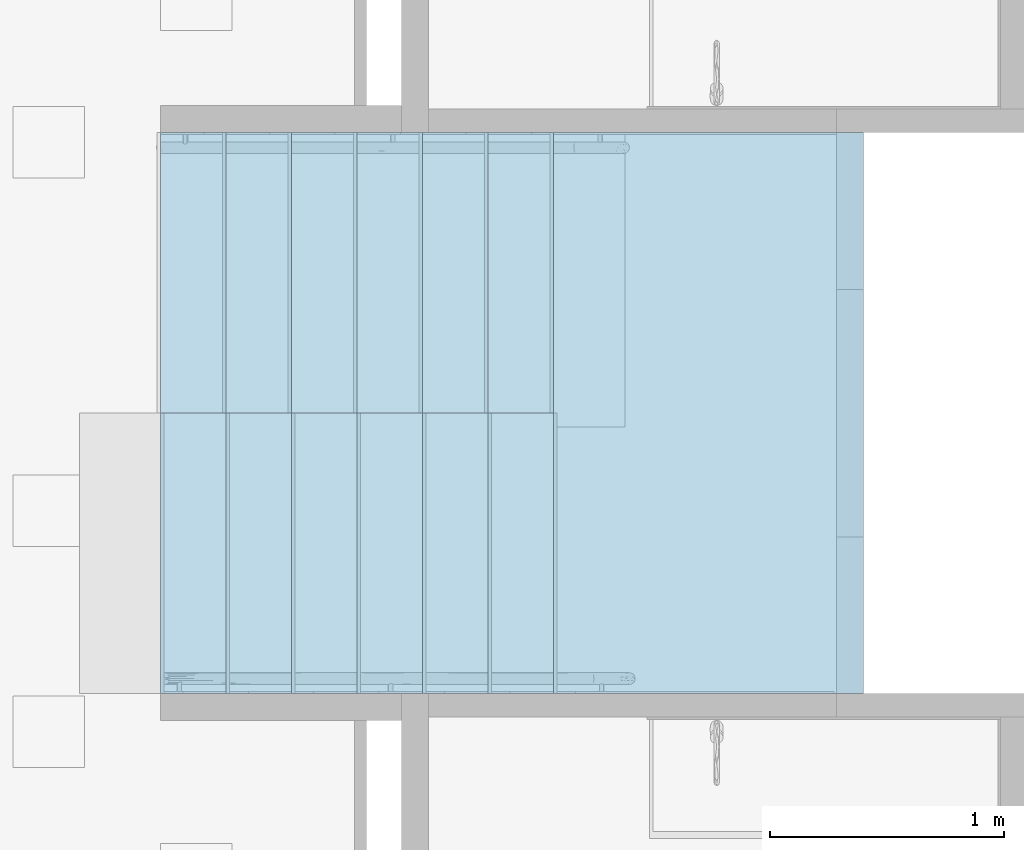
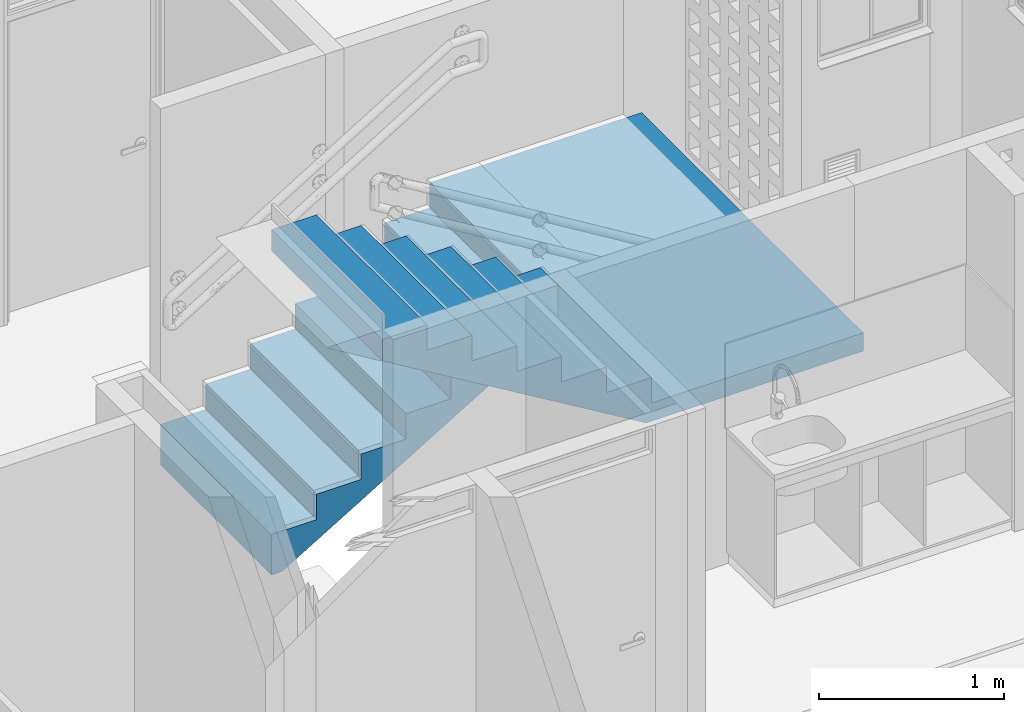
# One storey, part 33 of 48: 1 stair.
"""IFC4 building model written with IfcOpenShell, lengths in metres."""

from ifc_helpers import new_model, entity, si_unit, converted_unit, derived_unit, direction, frame, origin, place, context, subcontext, project, spatial, polygons, material, type_object, element, save


model = new_model("IFC4")

# Units and contexts
model_context = context("Model", 3, precision=1e-05, world=origin(), true_north=direction((6.123031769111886e-17, 1.0)))
body_context = subcontext(model_context, "Body", "Model", "MODEL_VIEW")
ifc_project = project(units=[si_unit("LENGTHUNIT", "METRE"), si_unit("AREAUNIT", "SQUARE_METRE"), si_unit("VOLUMEUNIT", "CUBIC_METRE"), converted_unit("PLANEANGLEUNIT", "DEGREE", entity("IfcRatioMeasure", 0.017453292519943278), si_unit("PLANEANGLEUNIT", "RADIAN"), dimensions=[0, 0, 0, 0, 0, 0, 0]), si_unit("MASSUNIT", "GRAM", prefix="KILO"), derived_unit("MASSDENSITYUNIT", [(si_unit("MASSUNIT", "GRAM", prefix="KILO"), 1), (si_unit("LENGTHUNIT", "METRE"), -3)]), derived_unit("IONCONCENTRATIONUNIT", [(si_unit("MASSUNIT", "GRAM", prefix="KILO"), 1), (si_unit("LENGTHUNIT", "METRE"), -3)]), derived_unit("MOMENTOFINERTIAUNIT", [(si_unit("LENGTHUNIT", "METRE"), 4)]), si_unit("TIMEUNIT", "SECOND"), si_unit("FREQUENCYUNIT", "HERTZ"), si_unit("THERMODYNAMICTEMPERATUREUNIT", "DEGREE_CELSIUS"), derived_unit("THERMALTRANSMITTANCEUNIT", [(si_unit("MASSUNIT", "GRAM", prefix="KILO"), 1), (si_unit("THERMODYNAMICTEMPERATUREUNIT", "KELVIN"), -1), (si_unit("TIMEUNIT", "SECOND"), -3)]), derived_unit("THERMALCONDUCTANCEUNIT", [(si_unit("MASSUNIT", "GRAM", prefix="KILO"), 1), (si_unit("THERMODYNAMICTEMPERATUREUNIT", "KELVIN"), -1), (si_unit("TIMEUNIT", "SECOND"), -3), (si_unit("LENGTHUNIT", "METRE"), 1)]), derived_unit("VOLUMETRICFLOWRATEUNIT", [(si_unit("LENGTHUNIT", "METRE"), 3), (si_unit("TIMEUNIT", "SECOND"), -1)]), derived_unit("MASSFLOWRATEUNIT", [(si_unit("MASSUNIT", "GRAM", prefix="KILO"), 1), (si_unit("TIMEUNIT", "SECOND"), -1)]), derived_unit("ROTATIONALFREQUENCYUNIT", [(si_unit("TIMEUNIT", "SECOND"), -1)]), si_unit("ELECTRICCURRENTUNIT", "AMPERE"), si_unit("ELECTRICVOLTAGEUNIT", "VOLT"), si_unit("POWERUNIT", "WATT"), si_unit("FORCEUNIT", "NEWTON", prefix="KILO"), si_unit("ILLUMINANCEUNIT", "LUX"), si_unit("LUMINOUSFLUXUNIT", "LUMEN"), si_unit("LUMINOUSINTENSITYUNIT", "CANDELA"), derived_unit("USERDEFINED", [(si_unit("MASSUNIT", "GRAM", prefix="KILO"), -1), (si_unit("LENGTHUNIT", "METRE"), -2), (si_unit("TIMEUNIT", "SECOND"), 3), (si_unit("LUMINOUSFLUXUNIT", "LUMEN"), 1)]), derived_unit("USERDEFINED", [(si_unit("MASSUNIT", "GRAM", prefix="KILO"), 1), (si_unit("TIMEUNIT", "SECOND"), -3), (si_unit("LENGTHUNIT", "METRE"), 3), (si_unit("ELECTRICCURRENTUNIT", "AMPERE"), -2)]), derived_unit("SOUNDPOWERUNIT", [(si_unit("MASSUNIT", "GRAM", prefix="KILO"), 1), (si_unit("TIMEUNIT", "SECOND"), -3), (si_unit("LENGTHUNIT", "METRE"), 2)]), derived_unit("SOUNDPRESSUREUNIT", [(si_unit("MASSUNIT", "GRAM", prefix="KILO"), 1), (si_unit("LENGTHUNIT", "METRE"), -1), (si_unit("TIMEUNIT", "SECOND"), -2)]), derived_unit("LINEARVELOCITYUNIT", [(si_unit("LENGTHUNIT", "METRE"), 1), (si_unit("TIMEUNIT", "SECOND"), -1)]), si_unit("PRESSUREUNIT", "PASCAL"), derived_unit("USERDEFINED", [(si_unit("MASSUNIT", "GRAM", prefix="KILO"), 1), (si_unit("LENGTHUNIT", "METRE"), -2), (si_unit("TIMEUNIT", "SECOND"), -2)]), derived_unit("LINEARFORCEUNIT", [(si_unit("MASSUNIT", "GRAM", prefix="KILO"), 1), (si_unit("TIMEUNIT", "SECOND"), -2)]), derived_unit("PLANARFORCEUNIT", [(si_unit("MASSUNIT", "GRAM", prefix="KILO"), 1), (si_unit("LENGTHUNIT", "METRE"), -1), (si_unit("TIMEUNIT", "SECOND"), -2)]), derived_unit("SPECIFICHEATCAPACITYUNIT", [(si_unit("THERMODYNAMICTEMPERATUREUNIT", "KELVIN"), -1), (si_unit("LENGTHUNIT", "METRE"), 2), (si_unit("TIMEUNIT", "SECOND"), -2)]), derived_unit("HEATINGVALUEUNIT", [(si_unit("LENGTHUNIT", "METRE"), 2), (si_unit("TIMEUNIT", "SECOND"), -2)]), derived_unit("VAPORPERMEABILITYUNIT", [(si_unit("LENGTHUNIT", "METRE"), -1), (si_unit("TIMEUNIT", "SECOND"), 1)]), derived_unit("DYNAMICVISCOSITYUNIT", [(si_unit("MASSUNIT", "GRAM", prefix="KILO"), 1), (si_unit("TIMEUNIT", "SECOND"), -1), (si_unit("LENGTHUNIT", "METRE"), -1)]), derived_unit("THERMALEXPANSIONCOEFFICIENTUNIT", [(si_unit("THERMODYNAMICTEMPERATUREUNIT", "KELVIN"), -1)]), derived_unit("MODULUSOFELASTICITYUNIT", [(si_unit("MASSUNIT", "GRAM", prefix="KILO"), 1), (si_unit("LENGTHUNIT", "METRE"), -1), (si_unit("TIMEUNIT", "SECOND"), -2)]), derived_unit("ISOTHERMALMOISTURECAPACITYUNIT", [(si_unit("LENGTHUNIT", "METRE"), 3), (si_unit("MASSUNIT", "GRAM", prefix="KILO"), -1)]), derived_unit("MOISTUREDIFFUSIVITYUNIT", [(si_unit("TIMEUNIT", "SECOND"), -1), (si_unit("LENGTHUNIT", "METRE"), 2)])], contexts=[model_context])

# Site, building, storey
site_placement = place(None, origin())
site = spatial("IfcSite", under=ifc_project, at=site_placement, Name="Default", CompositionType="ELEMENT")
building_placement = place(site_placement, origin())
building = spatial("IfcBuilding", under=site, at=building_placement, CompositionType="ELEMENT")
storey_placement = place(building_placement, frame((0.0, 0.0, 9.40000000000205)))
storey = spatial("IfcBuildingStorey", under=building, at=storey_placement, Name="Nivel 5", CompositionType="ELEMENT", Elevation=9.40000000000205)

# Stair
ifc_material = material(Name="Concreto (Aire)", Category="Materials")
stair_type = type_object("IfcStairType", Name="Stair:B1080 - 2.40 x 2.88 - Escalera en concreto de dos tramos piso tipo", PredefinedType="NOTDEFINED")
stair_placement = place(storey_placement, frame((9.55250000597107, -7.625000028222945, -0.09999999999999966)))
element("IfcStair", 1, at=stair_placement, inside=storey, type_object=stair_type, material=ifc_material, Name="Stair:B1080 - 2.40 x 2.88 - Escalera en concreto de dos tramos piso tipo", ObjectType="Stair:B1080 - 2.40 x 2.88 - Escalera en concreto de dos tramos piso tipo", PredefinedType="NOTDEFINED", context=body_context, shape_type="Tessellation", body=[
    polygons([(0.2800000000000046, 2.4000000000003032, 0.2678571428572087), (4.331468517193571e-15, 2.4000000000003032, 0.2678571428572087), (4.331468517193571e-15, 1.2000000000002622, 0.2678571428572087), (0.28000000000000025, 1.200000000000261, 0.2678571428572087), (0.28000000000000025, 2.4000000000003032, 0.43571428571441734), (0.5600000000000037, 2.4000000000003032, 0.43571428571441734), (0.5600000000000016, 2.4000000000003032, 0.6035714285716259), (0.8400000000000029, 2.4000000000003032, 0.6035714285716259), (0.8400000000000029, 2.4000000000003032, 0.7714285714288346), (1.120000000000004, 2.4000000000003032, 0.7714285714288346), (1.1199999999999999, 2.4000000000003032, 0.9392857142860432), (1.4000000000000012, 2.4000000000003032, 0.9392857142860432), (1.399999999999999, 2.4000000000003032, 1.1071428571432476), (1.6800000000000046, 2.4000000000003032, 1.1071428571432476), (1.6800000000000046, 2.4000000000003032, 1.2750000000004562), (3.005000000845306, 2.4000000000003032, 1.2750000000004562), (3.005000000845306, 2.4000000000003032, 1.1550000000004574), (1.993213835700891, 2.4000000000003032, 1.1550000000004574), (0.0665755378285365, 2.4000000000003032, 1.0828671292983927e-15), (4.331468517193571e-15, 2.4000000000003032, -1.0828671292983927e-15), (4.331468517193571e-15, 1.2000000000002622, -1.0828671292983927e-15), (1.993213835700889, 1.2000000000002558, 1.1550000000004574), (0.0665755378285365, 1.2000000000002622, 1.0828671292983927e-15), (1.6467861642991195, 1.199000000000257, 1.1550000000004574), (1.6467861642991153, 1.0828671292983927e-15, 1.1550000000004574), (-2.1657342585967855e-15, 1.0828671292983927e-15, 2.1422315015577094), (4.331468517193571e-15, 1.1990000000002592, 2.1422315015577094), (3.005000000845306, 1.0828671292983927e-15, 1.1550000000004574), (1.6800000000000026, 1.199000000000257, 1.1550000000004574), (1.6800000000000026, 1.2000000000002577, 1.1550000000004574), (0.28000000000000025, 1.2000000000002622, 0.43571428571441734), (0.5600000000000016, 1.200000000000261, 0.43571428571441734), (0.5600000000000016, 1.200000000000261, 0.6035714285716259), (0.8400000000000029, 1.200000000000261, 0.6035714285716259), (0.8400000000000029, 1.200000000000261, 0.7714285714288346), (1.1199999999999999, 1.200000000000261, 0.7714285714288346), (1.1199999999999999, 1.200000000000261, 0.9392857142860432), (1.399999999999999, 1.20000000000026, 0.9392857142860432), (1.399999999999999, 1.200000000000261, 1.1071428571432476), (1.6800000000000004, 1.2000000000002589, 1.1071428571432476), (1.6800000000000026, 1.2000000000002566, 1.2750000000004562), (1.6800000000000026, 1.199000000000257, 1.2750000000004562), (1.6799999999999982, 1.0828671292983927e-15, 1.2750000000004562), (3.005000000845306, 1.0828671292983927e-15, 1.2750000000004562), (1.6799999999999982, 1.0828671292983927e-15, 1.4428571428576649), (1.4000000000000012, 1.0828671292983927e-15, 1.4428571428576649), (1.4000000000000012, 1.0828671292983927e-15, 1.6107142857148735), (1.1199999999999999, 1.0828671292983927e-15, 1.6107142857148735), (1.1199999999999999, 1.0828671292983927e-15, 1.7785714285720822), (0.8399999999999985, 1.0828671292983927e-15, 1.7785714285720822), (0.8399999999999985, 1.0828671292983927e-15, 1.9464285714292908), (0.5600000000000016, 1.0828671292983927e-15, 1.9464285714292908), (0.5600000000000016, 1.0828671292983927e-15, 2.1142857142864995), (0.28000000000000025, 1.0828671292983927e-15, 2.1142857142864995), (0.28000000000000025, 1.0828671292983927e-15, 2.2821428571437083), (-2.1657342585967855e-15, 1.0828671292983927e-15, 2.2821428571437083), (1.6800000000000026, 1.199000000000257, 1.4428571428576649), (1.4000000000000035, 1.199000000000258, 1.4428571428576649), (1.4000000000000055, 1.199000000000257, 1.6107142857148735), (1.120000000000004, 1.199000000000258, 1.6107142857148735), (1.120000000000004, 1.199000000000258, 1.7785714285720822), (0.8400000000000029, 1.1990000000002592, 1.7785714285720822), (0.8400000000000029, 1.199000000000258, 1.9464285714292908), (0.5600000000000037, 1.1990000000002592, 1.9464285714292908), (0.5600000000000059, 1.199000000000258, 2.1142857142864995), (0.2800000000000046, 1.1990000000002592, 2.1142857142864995), (0.2800000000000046, 1.199000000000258, 2.2821428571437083), (4.331468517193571e-15, 1.199000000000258, 2.2821428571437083)], [[[1, 2, 3, 4]], [[2, 1, 5, 6, 7, 8, 9, 10, 11, 12, 13, 14, 15, 16, 17, 18, 19, 20]], [[3, 2, 20, 21]], [[18, 22, 23, 19]], [[24, 25, 26, 27]], [[22, 18, 17, 28, 25, 24, 29, 30]], [[6, 5, 31, 32]], [[8, 7, 33, 34]], [[10, 9, 35, 36]], [[12, 11, 37, 38]], [[14, 13, 39, 40]], [[16, 15, 41, 42, 43, 44]], [[42, 41, 30, 29]], [[44, 43, 45, 46, 47, 48, 49, 50, 51, 52, 53, 54, 55, 56, 26, 25, 28]], [[16, 44, 28, 17]], [[15, 14, 40, 30, 41]], [[46, 45, 57, 58]], [[48, 47, 59, 60]], [[50, 49, 61, 62]], [[52, 51, 63, 64]], [[54, 53, 65, 66]], [[56, 55, 67, 68]], [[21, 20, 19, 23]], [[4, 3, 21, 23, 22, 30, 40, 39, 38, 37, 36, 35, 34, 33, 32, 31]], [[1, 4, 31, 5]], [[7, 6, 32, 33]], [[9, 8, 34, 35]], [[11, 10, 36, 37]], [[13, 12, 38, 39]], [[43, 42, 57, 45]], [[58, 57, 42, 29, 24, 27, 68, 67, 66, 65, 64, 63, 62, 61, 60, 59]], [[47, 46, 58, 59]], [[49, 48, 60, 61]], [[51, 50, 62, 63]], [[53, 52, 64, 65]], [[55, 54, 66, 67]], [[56, 68, 27, 26]]], closed=True),
])

save(model, "model.ifc")
